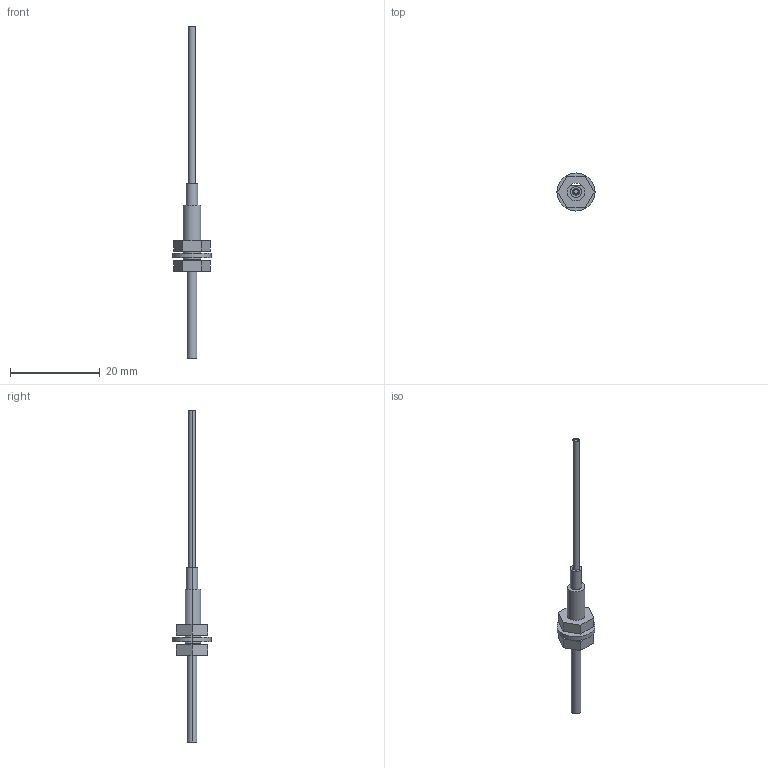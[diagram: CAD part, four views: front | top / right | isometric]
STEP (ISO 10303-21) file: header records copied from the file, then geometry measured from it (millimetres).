
FILE_DESCRIPTION (( 'STEP AP203' ), '1' );
FILE_NAME ('FT-FM2S4.STEP', '2005-09-08T01:46:03', ( '' ), ( '' ), 'SwSTEP 2.0', 'SolidWorks 2004073', '' );
FILE_SCHEMA (( 'CONFIG_CONTROL_DESIGN' ));
Length unit declared in the file: millimetre
Products named in the file (1): FT-FM2S4
Bounding box: 8.5 x 8.5 x 74 mm (x, y, z)
Volume: 495.8 mm3; surface area: 949.4 mm2
Topology: 4 solids, 4 shells, 44 faces, 96 edges, 64 vertices
Faces by surface type: plane 25, cylinder 19
Entity records: 1301 total; most frequent: DIRECTION 224, CARTESIAN_POINT 205, ORIENTED_EDGE 192, EDGE_CURVE 96, AXIS2_PLACEMENT_3D 83, VERTEX_POINT 64, VECTOR 58, LINE 58
